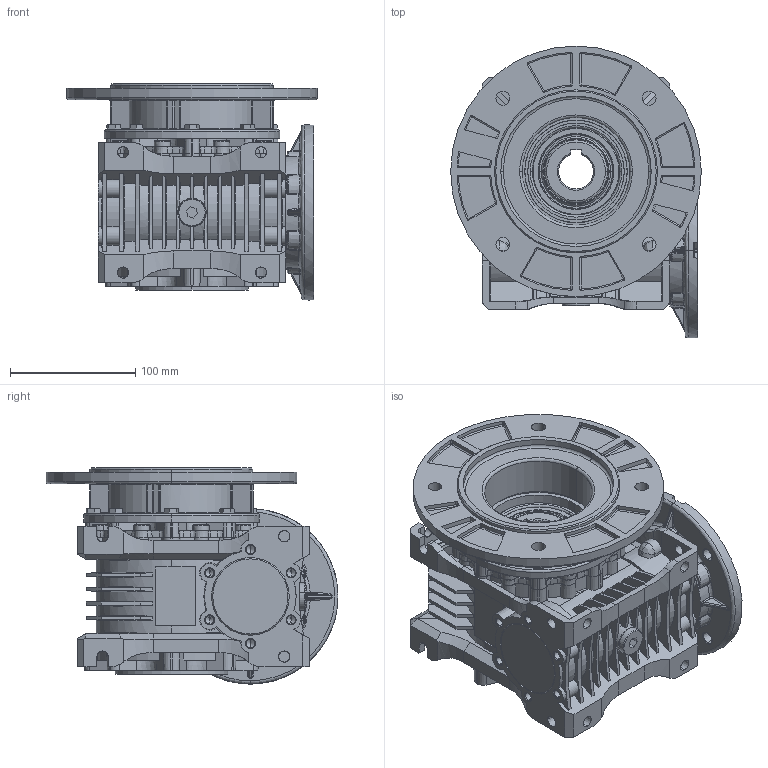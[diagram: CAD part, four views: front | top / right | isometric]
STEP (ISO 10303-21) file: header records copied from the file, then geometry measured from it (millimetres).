
FILE_DESCRIPTION (( 'STEP AP203' ), '1' );
FILE_NAME ('MR-63_140-24_K200-2_3D.STEP', '2023-10-11T10:47:04', ( '' ), ( '' ), 'SwSTEP 2.0', 'SolidWorks 2022', '' );
FILE_SCHEMA (( 'CONFIG_CONTROL_DESIGN' ));
Products named in the file (1): MR-63_140-24_K200-2_3D
Bounding box: 200 x 232.8 x 172.41 mm (x, y, z)
Volume: 2358267 mm3; surface area: 410924.2 mm2
Topology: 1 solids, 59 shells, 3938 faces, 9630 edges, 5821 vertices
Faces by surface type: plane 1211, cone 907, bspline 789, cylinder 657, torus 276, sphere 98
Entity records: 132948 total; most frequent: CARTESIAN_POINT 46536, ORIENTED_EDGE 18998, DIRECTION 17230, EDGE_CURVE 9499, AXIS2_PLACEMENT_3D 6828, VERTEX_POINT 5805, EDGE_LOOP 4130, ADVANCED_FACE 3938
